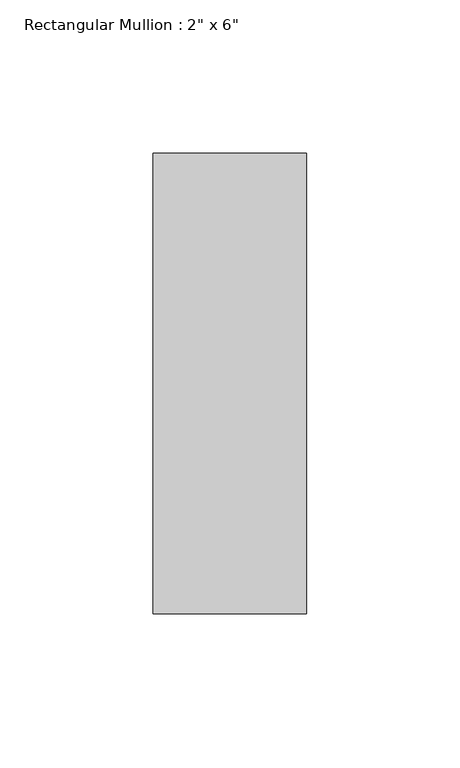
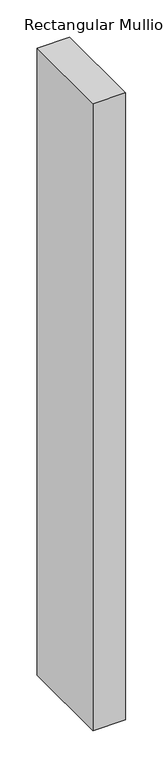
"""IFC4 building model written with IfcOpenShell, lengths in millimetres: member geometry."""

from ifc_helpers import new_model, si_unit, frame, origin, place, context, project, spatial, polyline, outline, extrude, source, transform, mapped, element, save


def member_4b1be5c8(model_context):
    return source(origin(), model_context, "Body", "SweptSolid", [
        extrude(outline(polyline([(25.0, 150.0), (25.0, 0.0), (-25.0, 0.0), (-25.0, 150.0), (25.0, 150.0)])), frame((0.0, 0.0, -1024.9276338), z_axis=(0.0, 0.0, 1.0), x_axis=(1.0, 0.0, 0.0)), (0.0, 0.0, 1.0), 1024.9276338),
    ])


if __name__ == "__main__":
    model = new_model("IFC4")
    model_context = context("Model", 3, world=origin())
    ifc_project = project(units=[si_unit("LENGTHUNIT", "METRE", prefix="MILLI")], contexts=[model_context])
    site = spatial("IfcSite", under=ifc_project)
    building = spatial("IfcBuilding", under=site)
    placement = place(None, origin())
    member_shape = member_4b1be5c8(model_context)
    element("IfcMember", 1, ObjectType="Rectangular Mullion : 2\" x 6\"", at=placement, inside=building, context=model_context, shape_type="MappedRepresentation", body=[
        mapped(member_shape, transform((0.0, 0.0, 0.0), x_axis=(1.0, 0.0, 0.0), y_axis=(0.0, 1.0, 0.0), z_axis=(0.0, 0.0, 1.0))),
    ])
    save(model, "model.ifc")
